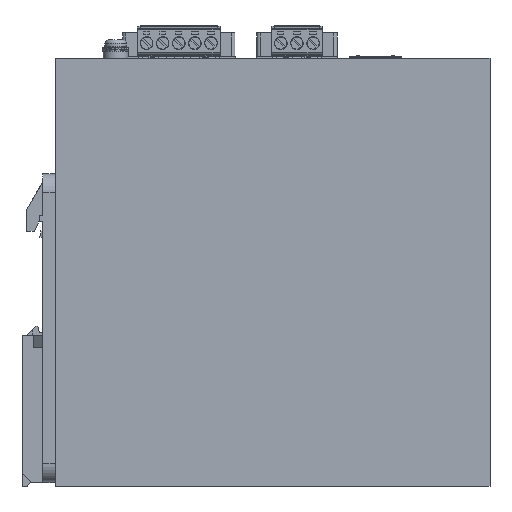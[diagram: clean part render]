
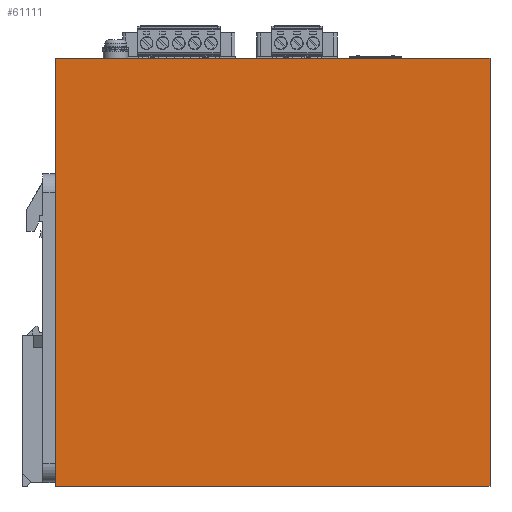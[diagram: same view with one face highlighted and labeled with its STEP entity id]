
A CAD part, left-side view. The second image highlights one B-rep face of the part: STEP entity #61111.
In plain terms, the highlighted planar face has unit normal (-1, 0, 0).
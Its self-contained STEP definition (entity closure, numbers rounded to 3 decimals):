
#60922=CARTESIAN_POINT('',(-0.,137.,135.));
#60923=VERTEX_POINT('',#60922);
#60930=CARTESIAN_POINT('',(0.,-0.,135.));
#60931=VERTEX_POINT('',#60930);
#60932=CARTESIAN_POINT('',(-0.,137.,135.));
#60933=DIRECTION('',(0.,-1.,-0.));
#60934=VECTOR('',#60933,137.);
#60935=LINE('',#60932,#60934);
#60936=EDGE_CURVE('',#60923,#60931,#60935,.T.);
#61061=CARTESIAN_POINT('',(-0.,137.,0.));
#61062=VERTEX_POINT('',#61061);
#61063=CARTESIAN_POINT('',(-0.,137.,0.));
#61064=DIRECTION('',(0.,-0.,1.));
#61065=VECTOR('',#61064,135.);
#61066=LINE('',#61063,#61065);
#61067=EDGE_CURVE('',#61062,#60923,#61066,.T.);
#61088=CARTESIAN_POINT('',(-0.,137.002,0.));
#61089=DIRECTION('',(1.,0.,-0.));
#61090=DIRECTION('',(0.,-0.,1.));
#61091=AXIS2_PLACEMENT_3D('',#61088,#61089,#61090);
#61092=PLANE('',#61091);
#61093=ORIENTED_EDGE('',*,*,#60936,.F.);
#61094=ORIENTED_EDGE('',*,*,#61067,.F.);
#61095=CARTESIAN_POINT('',(0.,0.,0.));
#61096=VERTEX_POINT('',#61095);
#61097=CARTESIAN_POINT('',(-0.,137.,0.));
#61098=DIRECTION('',(0.,-1.,-0.));
#61099=VECTOR('',#61098,137.);
#61100=LINE('',#61097,#61099);
#61101=EDGE_CURVE('',#61062,#61096,#61100,.T.);
#61102=ORIENTED_EDGE('',*,*,#61101,.T.);
#61103=CARTESIAN_POINT('',(0.,0.,0.));
#61104=DIRECTION('',(0.,-0.,1.));
#61105=VECTOR('',#61104,135.);
#61106=LINE('',#61103,#61105);
#61107=EDGE_CURVE('',#61096,#60931,#61106,.T.);
#61108=ORIENTED_EDGE('',*,*,#61107,.T.);
#61109=EDGE_LOOP('',(#61093,#61094,#61102,#61108));
#61110=FACE_BOUND('',#61109,.T.);
#61111=ADVANCED_FACE('',(#61110),#61092,.F.);
